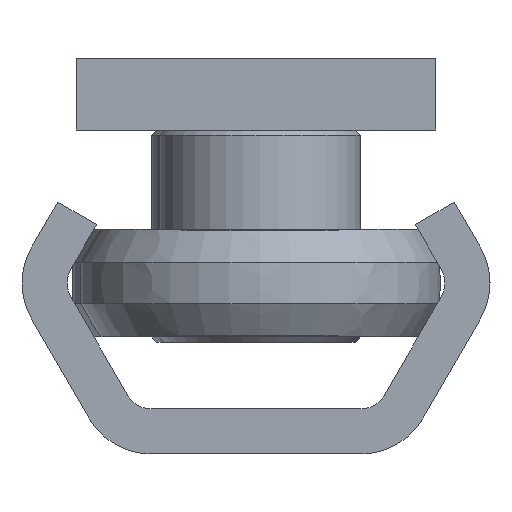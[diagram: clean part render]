
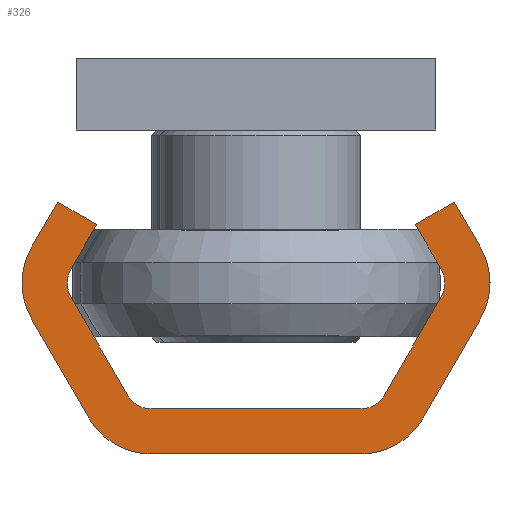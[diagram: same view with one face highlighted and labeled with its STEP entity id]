
A CAD part, left-side view. The second image highlights one B-rep face of the part: STEP entity #326.
In plain terms, the highlighted planar face has unit normal (-1, 0, 0).
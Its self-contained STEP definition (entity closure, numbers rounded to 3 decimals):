
#326 = ADVANCED_FACE( '', ( #709 ), #710, .F. );
#709 = FACE_OUTER_BOUND( '', #1303, .T. );
#710 = PLANE( '', #1304 );
#1303 = EDGE_LOOP( '', ( #2069, #2070, #2071, #2072, #2073, #2074, #2075, #2076, #2077, #2078, #2079, #2080, #2081, #2082, #2083, #2084, #2085, #2086, #2087, #2088 ) );
#1304 = AXIS2_PLACEMENT_3D( '', #2089, #2090, #2091 );
#2069 = ORIENTED_EDGE( '', *, *, #3168, .F. );
#2070 = ORIENTED_EDGE( '', *, *, #3169, .F. );
#2071 = ORIENTED_EDGE( '', *, *, #3170, .F. );
#2072 = ORIENTED_EDGE( '', *, *, #3171, .F. );
#2073 = ORIENTED_EDGE( '', *, *, #3172, .F. );
#2074 = ORIENTED_EDGE( '', *, *, #3173, .F. );
#2075 = ORIENTED_EDGE( '', *, *, #3174, .F. );
#2076 = ORIENTED_EDGE( '', *, *, #3175, .T. );
#2077 = ORIENTED_EDGE( '', *, *, #3176, .F. );
#2078 = ORIENTED_EDGE( '', *, *, #3177, .T. );
#2079 = ORIENTED_EDGE( '', *, *, #3178, .F. );
#2080 = ORIENTED_EDGE( '', *, *, #3179, .T. );
#2081 = ORIENTED_EDGE( '', *, *, #3125, .F. );
#2082 = ORIENTED_EDGE( '', *, *, #3180, .T. );
#2083 = ORIENTED_EDGE( '', *, *, #3181, .F. );
#2084 = ORIENTED_EDGE( '', *, *, #3182, .F. );
#2085 = ORIENTED_EDGE( '', *, *, #3183, .F. );
#2086 = ORIENTED_EDGE( '', *, *, #3184, .F. );
#2087 = ORIENTED_EDGE( '', *, *, #3185, .F. );
#2088 = ORIENTED_EDGE( '', *, *, #3186, .F. );
#2089 = CARTESIAN_POINT( '', ( 0., -5.825, -4. ) );
#2090 = DIRECTION( '', ( 1., 0., 0. ) );
#2091 = DIRECTION( '', ( 0., 0., -1. ) );
#3125 = EDGE_CURVE( '', #3558, #3559, #3560, .T. );
#3168 = EDGE_CURVE( '', #3634, #3635, #3636, .T. );
#3169 = EDGE_CURVE( '', #3637, #3634, #3638, .T. );
#3170 = EDGE_CURVE( '', #3639, #3637, #3640, .T. );
#3171 = EDGE_CURVE( '', #3641, #3639, #3642, .T. );
#3172 = EDGE_CURVE( '', #3643, #3641, #3644, .T. );
#3173 = EDGE_CURVE( '', #3645, #3643, #3646, .T. );
#3174 = EDGE_CURVE( '', #3647, #3645, #3648, .T. );
#3175 = EDGE_CURVE( '', #3647, #3649, #3650, .T. );
#3176 = EDGE_CURVE( '', #3651, #3649, #3652, .T. );
#3177 = EDGE_CURVE( '', #3651, #3653, #3654, .T. );
#3178 = EDGE_CURVE( '', #3655, #3653, #3656, .T. );
#3179 = EDGE_CURVE( '', #3655, #3559, #3657, .T. );
#3180 = EDGE_CURVE( '', #3558, #3658, #3659, .T. );
#3181 = EDGE_CURVE( '', #3660, #3658, #3661, .T. );
#3182 = EDGE_CURVE( '', #3662, #3660, #3663, .T. );
#3183 = EDGE_CURVE( '', #3664, #3662, #3665, .T. );
#3184 = EDGE_CURVE( '', #3666, #3664, #3667, .T. );
#3185 = EDGE_CURVE( '', #3668, #3666, #3669, .T. );
#3186 = EDGE_CURVE( '', #3635, #3668, #3670, .T. );
#3558 = VERTEX_POINT( '', #4186 );
#3559 = VERTEX_POINT( '', #4187 );
#3560 = LINE( '', #4188, #4189 );
#3634 = VERTEX_POINT( '', #4273 );
#3635 = VERTEX_POINT( '', #4274 );
#3636 = LINE( '', #4275, #4276 );
#3637 = VERTEX_POINT( '', #4277 );
#3638 = CIRCLE( '', #4278, 4. );
#3639 = VERTEX_POINT( '', #4279 );
#3640 = LINE( '', #4280, #4281 );
#3641 = VERTEX_POINT( '', #4282 );
#3642 = CIRCLE( '', #4283, 4. );
#3643 = VERTEX_POINT( '', #4284 );
#3644 = LINE( '', #4285, #4286 );
#3645 = VERTEX_POINT( '', #4287 );
#3646 = LINE( '', #4288, #4289 );
#3647 = VERTEX_POINT( '', #4290 );
#3648 = LINE( '', #4291, #4292 );
#3649 = VERTEX_POINT( '', #4293 );
#3650 = CIRCLE( '', #4294, 1.5 );
#3651 = VERTEX_POINT( '', #4295 );
#3652 = LINE( '', #4296, #4297 );
#3653 = VERTEX_POINT( '', #4298 );
#3654 = CIRCLE( '', #4299, 1.5 );
#3655 = VERTEX_POINT( '', #4300 );
#3656 = LINE( '', #4301, #4302 );
#3657 = CIRCLE( '', #4303, 1.5 );
#3658 = VERTEX_POINT( '', #4304 );
#3659 = CIRCLE( '', #4305, 1.5 );
#3660 = VERTEX_POINT( '', #4306 );
#3661 = LINE( '', #4307, #4308 );
#3662 = VERTEX_POINT( '', #4309 );
#3663 = LINE( '', #4310, #4311 );
#3664 = VERTEX_POINT( '', #4312 );
#3665 = LINE( '', #4313, #4314 );
#3666 = VERTEX_POINT( '', #4315 );
#3667 = CIRCLE( '', #4316, 4. );
#3668 = VERTEX_POINT( '', #4317 );
#3669 = LINE( '', #4318, #4319 );
#3670 = CIRCLE( '', #4320, 4. );
#4186 = CARTESIAN_POINT( '', ( 0., -10.299, -8.75 ) );
#4187 = CARTESIAN_POINT( '', ( 0., -7.124, -3.25 ) );
#4188 = CARTESIAN_POINT( '', ( 0., -10.299, -8.75 ) );
#4189 = VECTOR( '', #4924, 1000. );
#4273 = CARTESIAN_POINT( '', ( 0., 5.825, 0. ) );
#4274 = CARTESIAN_POINT( '', ( 0., -5.825, 0. ) );
#4275 = CARTESIAN_POINT( '', ( 0., 5.825, 0. ) );
#4276 = VECTOR( '', #5004, 1000. );
#4277 = CARTESIAN_POINT( '', ( 0., 9.289, -2. ) );
#4278 = AXIS2_PLACEMENT_3D( '', #5005, #5006, #5007 );
#4279 = CARTESIAN_POINT( '', ( 0., 12.464, -7.5 ) );
#4280 = CARTESIAN_POINT( '', ( 0., 12.464, -7.5 ) );
#4281 = VECTOR( '', #5008, 1000. );
#4282 = CARTESIAN_POINT( '', ( 0., 12.464, -11.5 ) );
#4283 = AXIS2_PLACEMENT_3D( '', #5009, #5010, #5011 );
#4284 = CARTESIAN_POINT( '', ( 0., 11.021, -14. ) );
#4285 = CARTESIAN_POINT( '', ( 0., 11.021, -14. ) );
#4286 = VECTOR( '', #5012, 1000. );
#4287 = CARTESIAN_POINT( '', ( 0., 8.856, -12.75 ) );
#4288 = CARTESIAN_POINT( '', ( 0., 8.856, -12.75 ) );
#4289 = VECTOR( '', #5013, 1000. );
#4290 = CARTESIAN_POINT( '', ( 0., 10.299, -10.25 ) );
#4291 = CARTESIAN_POINT( '', ( 0., 10.299, -10.25 ) );
#4292 = VECTOR( '', #5014, 1000. );
#4293 = CARTESIAN_POINT( '', ( 0., 10.299, -8.75 ) );
#4294 = AXIS2_PLACEMENT_3D( '', #5015, #5016, #5017 );
#4295 = CARTESIAN_POINT( '', ( 0., 7.124, -3.25 ) );
#4296 = CARTESIAN_POINT( '', ( 0., 7.124, -3.25 ) );
#4297 = VECTOR( '', #5018, 1000. );
#4298 = CARTESIAN_POINT( '', ( 0., 5.825, -2.5 ) );
#4299 = AXIS2_PLACEMENT_3D( '', #5019, #5020, #5021 );
#4300 = CARTESIAN_POINT( '', ( 0., -5.825, -2.5 ) );
#4301 = CARTESIAN_POINT( '', ( 0., -5.825, -2.5 ) );
#4302 = VECTOR( '', #5022, 1000. );
#4303 = AXIS2_PLACEMENT_3D( '', #5023, #5024, #5025 );
#4304 = CARTESIAN_POINT( '', ( 0., -10.299, -10.25 ) );
#4305 = AXIS2_PLACEMENT_3D( '', #5026, #5027, #5028 );
#4306 = CARTESIAN_POINT( '', ( 0., -8.856, -12.75 ) );
#4307 = CARTESIAN_POINT( '', ( 0., -8.856, -12.75 ) );
#4308 = VECTOR( '', #5029, 1000. );
#4309 = CARTESIAN_POINT( '', ( 0., -11.021, -14. ) );
#4310 = CARTESIAN_POINT( '', ( 0., -11.021, -14. ) );
#4311 = VECTOR( '', #5030, 1000. );
#4312 = CARTESIAN_POINT( '', ( 0., -12.464, -11.5 ) );
#4313 = CARTESIAN_POINT( '', ( 0., -12.464, -11.5 ) );
#4314 = VECTOR( '', #5031, 1000. );
#4315 = CARTESIAN_POINT( '', ( 0., -12.464, -7.5 ) );
#4316 = AXIS2_PLACEMENT_3D( '', #5032, #5033, #5034 );
#4317 = CARTESIAN_POINT( '', ( 0., -9.289, -2. ) );
#4318 = CARTESIAN_POINT( '', ( 0., -9.289, -2. ) );
#4319 = VECTOR( '', #5035, 1000. );
#4320 = AXIS2_PLACEMENT_3D( '', #5036, #5037, #5038 );
#4924 = DIRECTION( '', ( 0., 0.5, 0.866 ) );
#5004 = DIRECTION( '', ( 0., -1., 0. ) );
#5005 = CARTESIAN_POINT( '', ( 0., 5.825, -4. ) );
#5006 = DIRECTION( '', ( 1., 0., 0. ) );
#5007 = DIRECTION( '', ( 0., 0., -1. ) );
#5008 = DIRECTION( '', ( 0., -0.5, 0.866 ) );
#5009 = CARTESIAN_POINT( '', ( 0., 9., -9.5 ) );
#5010 = DIRECTION( '', ( 1., 0., 0. ) );
#5011 = DIRECTION( '', ( 0., 0., -1. ) );
#5012 = DIRECTION( '', ( 0., 0.5, 0.866 ) );
#5013 = DIRECTION( '', ( 0., 0.866, -0.5 ) );
#5014 = DIRECTION( '', ( 0., -0.5, -0.866 ) );
#5015 = CARTESIAN_POINT( '', ( 0., 9., -9.5 ) );
#5016 = DIRECTION( '', ( 1., 0., 0. ) );
#5017 = DIRECTION( '', ( 0., 0., -1. ) );
#5018 = DIRECTION( '', ( 0., 0.5, -0.866 ) );
#5019 = CARTESIAN_POINT( '', ( 0., 5.825, -4. ) );
#5020 = DIRECTION( '', ( 1., 0., 0. ) );
#5021 = DIRECTION( '', ( 0., 0., -1. ) );
#5022 = DIRECTION( '', ( 0., 1., 0. ) );
#5023 = CARTESIAN_POINT( '', ( 0., -5.825, -4. ) );
#5024 = DIRECTION( '', ( 1., 0., 0. ) );
#5025 = DIRECTION( '', ( 0., 0., -1. ) );
#5026 = CARTESIAN_POINT( '', ( 0., -9., -9.5 ) );
#5027 = DIRECTION( '', ( 1., 0., 0. ) );
#5028 = DIRECTION( '', ( 0., 0., -1. ) );
#5029 = DIRECTION( '', ( 0., -0.5, 0.866 ) );
#5030 = DIRECTION( '', ( 0., 0.866, 0.5 ) );
#5031 = DIRECTION( '', ( 0., 0.5, -0.866 ) );
#5032 = CARTESIAN_POINT( '', ( 0., -9., -9.5 ) );
#5033 = DIRECTION( '', ( 1., 0., 0. ) );
#5034 = DIRECTION( '', ( 0., 0., -1. ) );
#5035 = DIRECTION( '', ( 0., -0.5, -0.866 ) );
#5036 = CARTESIAN_POINT( '', ( 0., -5.825, -4. ) );
#5037 = DIRECTION( '', ( 1., 0., 0. ) );
#5038 = DIRECTION( '', ( 0., 0., -1. ) );
